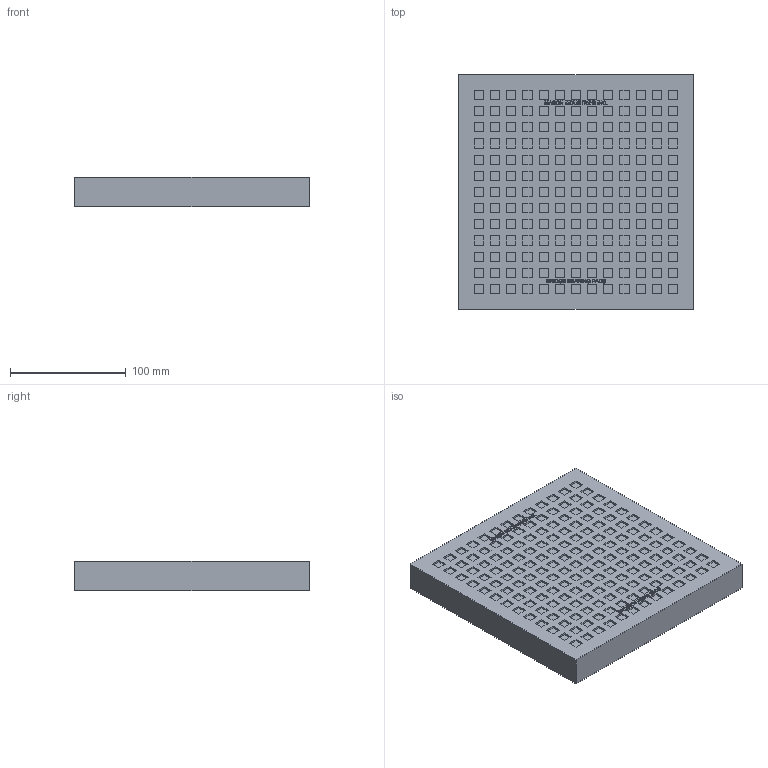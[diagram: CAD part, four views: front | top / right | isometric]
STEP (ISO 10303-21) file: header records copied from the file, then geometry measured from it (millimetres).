
FILE_DESCRIPTION(/* description */ (''),/* implementation_level */ '2;1');
FILE_NAME(/* name */ 'C:\001_Work\Designs\BBNR\BBNR 8 x 8 x 1.stp',/* time_stamp */ '2015-08-20T16:19:52-04:00',/* author */ ('rramoutar'),/* organization */ ('Mason Industries Inc.'),/* preprocessor_version */ 'ST-DEVELOPER v15.6',/* originating_system */ 'Autodesk Inventor 2015',/* authorisation */ '');
FILE_SCHEMA (('AUTOMOTIVE_DESIGN { 1 0 10303 214 3 1 1 }'));
Products named in the file (1): BBNR 8 x 8 x 1
Bounding box: 203.2 x 203.2 x 25.8 mm (x, y, z)
Volume: 1014475.9 mm3; surface area: 120625.8 mm2
Topology: 1 solids, 1 shells, 2668 faces, 6678 edges, 4452 vertices
Faces by surface type: plane 2316, bspline 352
Entity records: 81638 total; most frequent: CARTESIAN_POINT 19921, ORIENTED_EDGE 13356, DIRECTION 10608, EDGE_CURVE 6678, LINE 5974, VECTOR 5974, VERTEX_POINT 4452, EDGE_LOOP 3108
